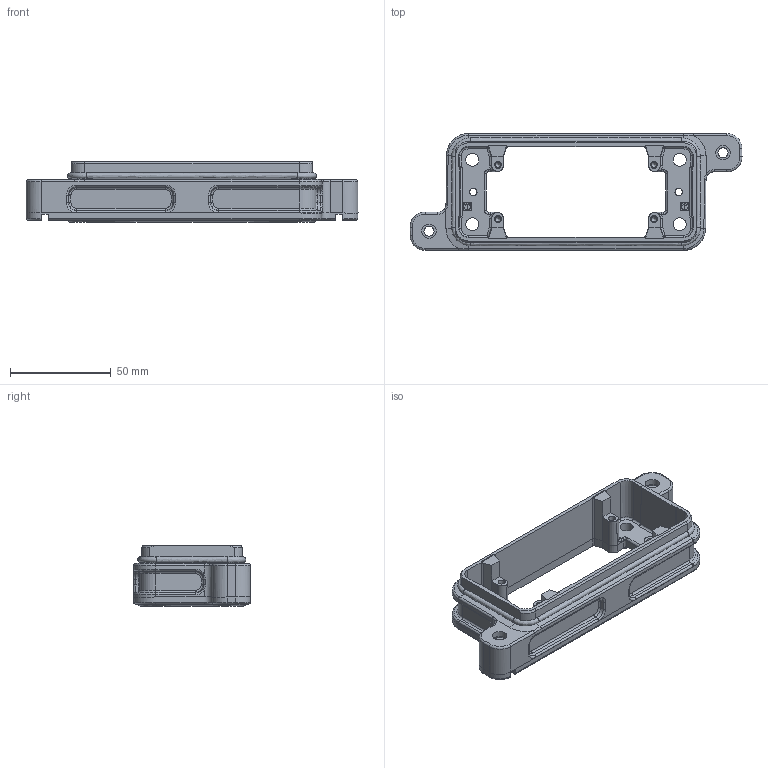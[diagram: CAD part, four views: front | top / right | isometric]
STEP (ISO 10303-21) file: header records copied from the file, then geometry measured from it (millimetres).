
FILE_DESCRIPTION(/* description */ (''),/* implementation_level */ '2;1');
FILE_NAME(/* name */ '100224430ugm000_d.stp',/* time_stamp */ '2022-03-11T17:27:20+01:00',/* author */ (''),/* organization */ (''),/* preprocessor_version */ 'ST-DEVELOPER v16.7',/* originating_system */ 'SIEMENS PLM Software NX 1911',/* authorisation */ '');
FILE_SCHEMA (('AUTOMOTIVE_DESIGN { 1 0 10303 214 3 1 1 1 }'));
Length unit declared in the file: millimetre
Products named in the file (1): 100224430ugm000_d
Bounding box: 164.87 x 58 x 29.95 mm (x, y, z)
Volume: 67490.6 mm3; surface area: 34283.8 mm2
Topology: 1 solids, 3 shells, 785 faces, 2038 edges, 1271 vertices
Faces by surface type: plane 409, cylinder 199, bspline 105, cone 51, torus 18, sphere 3
Full cylindrical faces by diameter (mm): 2.74 x4, 3.575 x2, 3.65 x2, 3.7 x2, 5 x2, 6.5 x4, 7.1 x2
Entity records: 31884 total; most frequent: CARTESIAN_POINT 7805, ORIENTED_EDGE 3938, DIRECTION 3696, EDGE_CURVE 1969, VERTEX_POINT 1245, LINE 1244, VECTOR 1244, AXIS2_PLACEMENT_3D 1226
